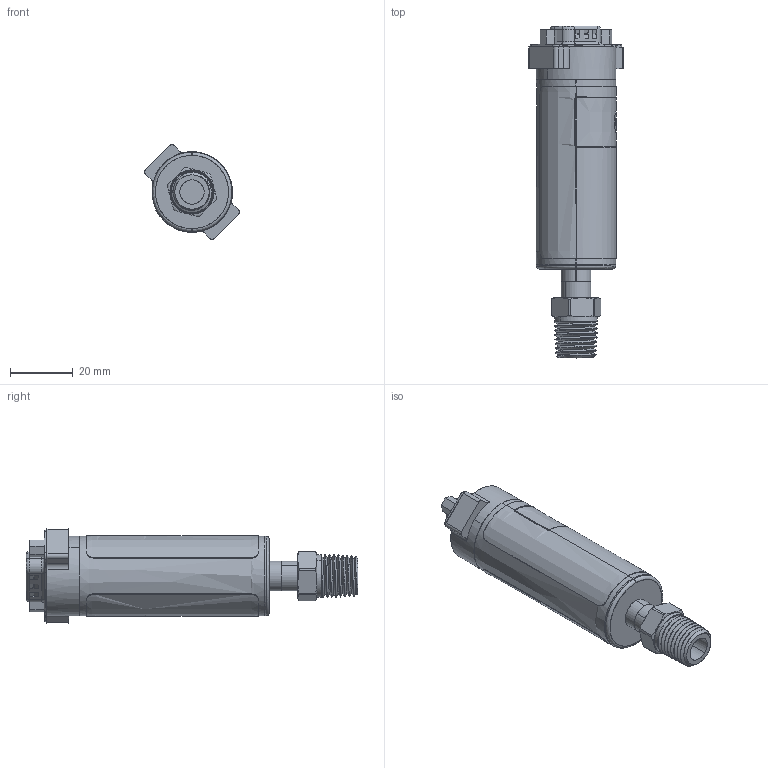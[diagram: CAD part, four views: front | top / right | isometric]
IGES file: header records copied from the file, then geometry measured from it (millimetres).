
Start section: SolidWorks IGES file using analytic representation for surfaces
Global section: file name: R:\Brooks Instrument\25-0024 SSII CAD File Generation\Client Files\SSII CAD Models for Website\CAD for Brooks Website\Example\GSD\GSD-XXXXXX-K-XXX-NT\IGES\GSD-XXXXXX-K-XXX-NT.IGS; native system: SolidWorks 2023; preprocessor: SolidWorks 2023; author: CYatsko; date: 250625.114921; units: inch
Bounding box: 30.23 x 106.08 x 30.23 mm (x, y, z)
Surface area: 16442.1 mm2 (no closed solid volume)
Topology: 0 solids, 0 shells, 567 faces, 5607 edges, 5603 vertices
Faces by surface type: bspline 320, revolution 247
